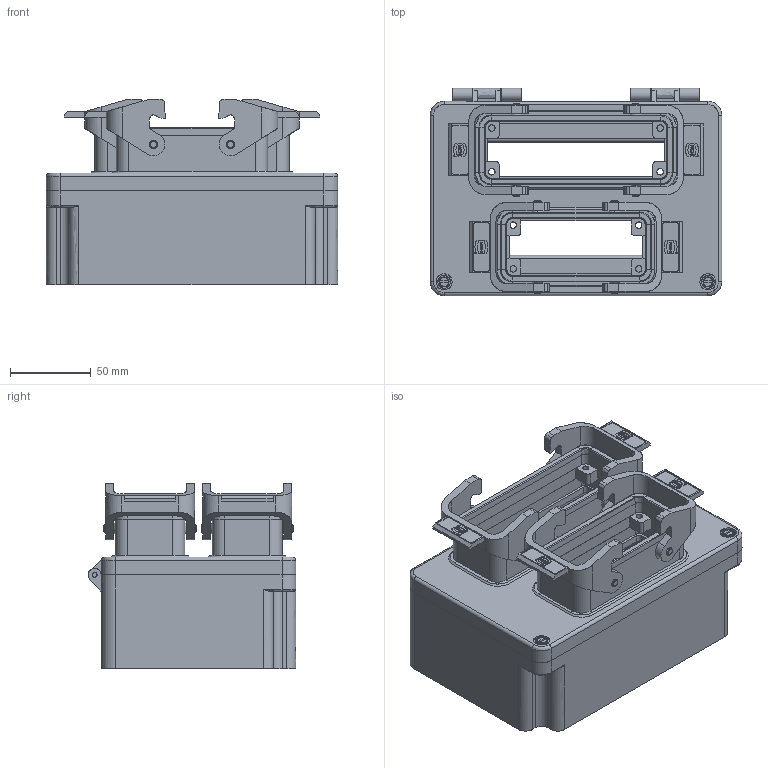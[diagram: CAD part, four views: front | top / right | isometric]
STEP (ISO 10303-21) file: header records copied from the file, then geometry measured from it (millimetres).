
FILE_DESCRIPTION( ( 'STEP AP214' ), '1' );
FILE_NAME( 'C:/Dokumente und Einstellungen/Administrator/Desktop/47 Kabelboxen/G4/9/gr_4_24e_16e-aa.stp', '2006-09-10T20:47:55', ( ' ' ), ( ' ' ), 'XStep 1.0', 'VISICAD', ' ' );
FILE_SCHEMA( ( 'automotive_design' ) );
Length unit declared in the file: millimetre
Products named in the file (1787): 1; 2; 3; 4; 5; 6; 7; 8; 9; 10; 11; 12; 13; 14; 15; 16; 17; 18; 19; 20; 21; 22; 23; 24; 25; 26; 27; 28; 29; 30; 31; 32; 33; 34; 35; 36; 37; 38; 39; 40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
Bounding box: 180 x 128.2 x 114.6 mm (x, y, z)
Surface area: 218192.6 mm2 (no closed solid volume)
Topology: 0 solids, 1787 shells, 1787 faces, 9105 edges, 9089 vertices
Faces by surface type: plane 1055, bspline 320, revolution 248, cylinder 164
Full cylindrical faces by diameter (mm): 0.76 x4, 0.84 x4, 5.1 x8
Entity records: 180244 total; most frequent: CARTESIAN_POINT 70713, DIRECTION 14108, ORIENTED_EDGE 9089, EDGE_CURVE 9089, VERTEX_POINT 9089, LINE 6066, VECTOR 6066, AXIS2_PLACEMENT_3D 3897
